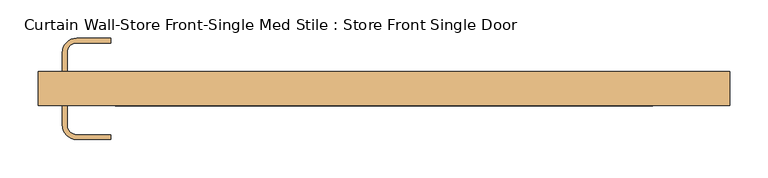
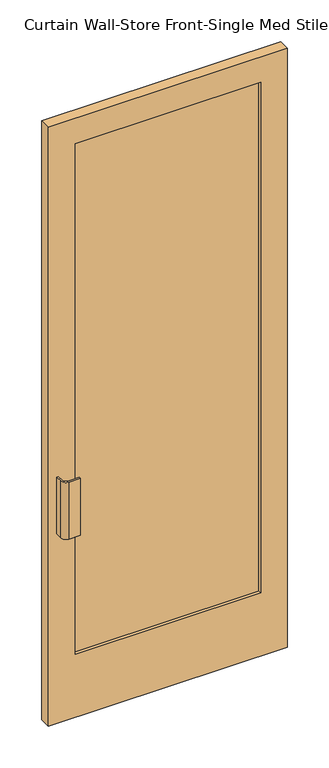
"""IFC4 building model written with IfcOpenShell, lengths in millimetres: door geometry, Curtain Wall-Store Front-Single Med Stile : Store Front Single Door."""

from ifc_helpers import new_model, si_unit, point, frame, frame_2d, origin, place, context, project, spatial, polyline, circle_curve, trimmed, segment, composite_curve, outline, extrude, source, transform, mapped, element, save


def curtain_wall_store_front_single_med_stile_store_front_single_1d4f68a2(model_context):
    return source(origin(), model_context, "Body", "SweptSolid", [
        extrude(outline(composite_curve([segment(polyline([(-425.846875, -12.7), (-425.846875, 12.7), (-419.496875, 12.7), (-419.496875, -12.7)]), True, "CONTINUOUS"), segment(trimmed(circle_curve(frame_2d((-406.796875, -12.7)), 12.7), [point((-419.496875, -12.7))], [point((-406.796875, -25.4))], True, "CARTESIAN"), True, "CONTINUOUS"), segment(polyline([(-406.796875, -25.4), (-362.346875, -25.4), (-362.346875, -31.75), (-406.796875, -31.75)]), True, "CONTINUOUS"), segment(trimmed(circle_curve(frame_2d((-406.796875, -12.7)), 19.05), [point((-406.796875, -31.75))], [point((-425.846875, -12.7))], False, "CARTESIAN"), True, "CONTINUOUS")], self_intersect=False)), frame((0.0, 0.0, 762.0), z_axis=(0.0, 0.0, 1.0), x_axis=(1.0, 0.0, 0.0)), (0.0, 0.0, 1.0), 228.6),
        extrude(outline(composite_curve([segment(trimmed(circle_curve(frame_2d((-406.796875, 82.55)), 19.05), [point((-425.846875, 82.55))], [point((-406.796875, 101.6))], False, "CARTESIAN"), True, "CONTINUOUS"), segment(polyline([(-406.796875, 101.6), (-362.346875, 101.6), (-362.346875, 95.25), (-406.796875, 95.25)]), True, "CONTINUOUS"), segment(trimmed(circle_curve(frame_2d((-406.796875, 82.55)), 12.7), [point((-406.796875, 95.25))], [point((-419.496875, 82.55))], True, "CARTESIAN"), True, "CONTINUOUS"), segment(polyline([(-419.496875, 82.55), (-419.496875, 57.15), (-425.846875, 57.15), (-425.846875, 82.55)]), True, "CONTINUOUS")], self_intersect=False)), frame((0.0, 0.0, 762.0), z_axis=(0.0, 0.0, 1.0), x_axis=(1.0, 0.0, 0.0)), (0.0, 0.0, 1.0), 228.6),
        extrude(outline(polyline([(392.90625, 25.4), (-399.653125, 25.4), (-399.653125, 44.45), (392.90625, 44.45), (392.90625, 25.4)])), frame((0.0, 0.0, 57.15), z_axis=(0.0, 0.0, 1.0), x_axis=(1.0, 0.0, 0.0)), (0.0, 0.0, 1.0), 2292.35),
        extrude(outline(polyline([(2406.65, -457.596875), (0.0, -457.596875), (0.0, 450.453125), (2406.65, 450.453125), (2406.65, -457.596875)]), holes=[polyline([(2305.05, -355.996875), (2305.05, 348.853125), (254.0, 348.853125), (254.0, -355.996875), (2305.05, -355.996875)])]), frame((0.0, 12.7, 0.0), z_axis=(0.0, 1.0, 0.0), x_axis=(0.0, 0.0, 1.0)), (0.0, 0.0, 1.0), 44.45),
    ])


if __name__ == "__main__":
    model = new_model("IFC4")
    model_context = context("Model", 3, world=origin())
    ifc_project = project(units=[si_unit("LENGTHUNIT", "METRE", prefix="MILLI")], contexts=[model_context])
    site = spatial("IfcSite", under=ifc_project)
    building = spatial("IfcBuilding", under=site)
    placement = place(None, origin())
    curtain_wall_store_front_single_med_stile_store_front_single_shape = curtain_wall_store_front_single_med_stile_store_front_single_1d4f68a2(model_context)
    element("IfcDoor", 1, ObjectType="Curtain Wall-Store Front-Single Med Stile : Store Front Single Door", at=placement, inside=building, context=model_context, shape_type="MappedRepresentation", body=[
        mapped(curtain_wall_store_front_single_med_stile_store_front_single_shape, transform((0.0, 0.0, 0.0), x_axis=(1.0, 0.0, 0.0), y_axis=(0.0, 1.0, 0.0), z_axis=(0.0, 0.0, 1.0))),
    ])
    save(model, "model.ifc")
